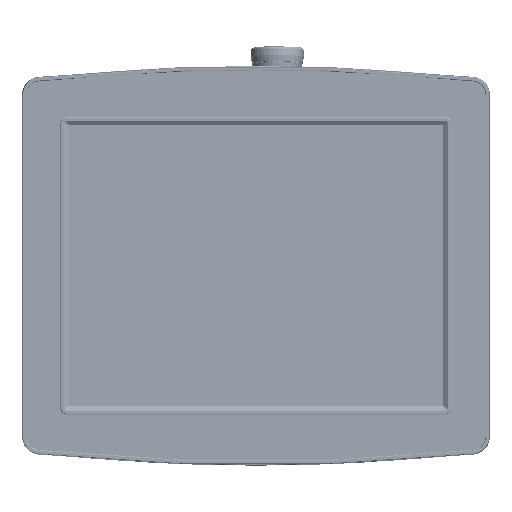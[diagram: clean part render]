
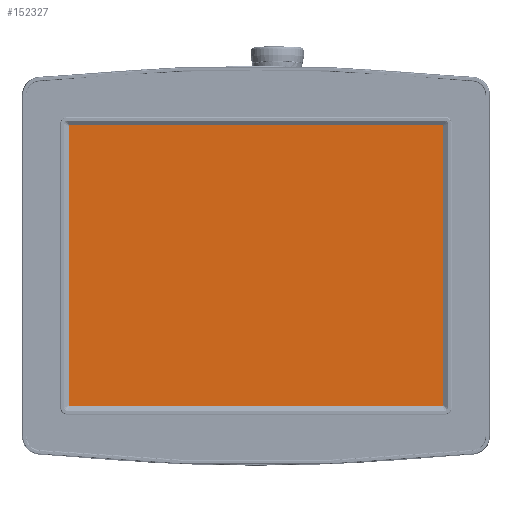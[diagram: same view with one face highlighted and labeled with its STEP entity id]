
A CAD part, top view. The second image highlights one B-rep face of the part: STEP entity #152327.
In plain terms, the highlighted planar face has unit normal (0, 0, 1).
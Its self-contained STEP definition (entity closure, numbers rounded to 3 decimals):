
#16650 = CARTESIAN_POINT ( 'NONE',  ( 25.81, 25.83, -0.45 ) ) ;
#61276 = ORIENTED_EDGE ( 'NONE', *, *, #627952, .T. ) ;
#71238 = DIRECTION ( 'NONE',  ( 1., 0., 0. ) ) ;
#73492 = VECTOR ( 'NONE', #71238, 1000. ) ;
#138858 = CARTESIAN_POINT ( 'NONE',  ( 25.81, 25.83, -0.45 ) ) ;
#152327 = ADVANCED_FACE ( 'NONE', ( #237484 ), #245871, .T. ) ;
#162968 = ORIENTED_EDGE ( 'NONE', *, *, #581697, .T. ) ;
#164666 = DIRECTION ( 'NONE',  ( 0., 1., 0. ) ) ;
#193358 = DIRECTION ( 'NONE',  ( 1., 0., 0. ) ) ;
#222111 = CARTESIAN_POINT ( 'NONE',  ( 237.39, 25.83, -0.45 ) ) ;
#237484 = FACE_OUTER_BOUND ( 'NONE', #618529, .T. ) ;
#245871 = PLANE ( 'NONE',  #559410 ) ;
#248037 = VERTEX_POINT ( 'NONE', #329435 ) ;
#249785 = VECTOR ( 'NONE', #273059, 1000. ) ;
#251540 = LINE ( 'NONE', #333216, #540423 ) ;
#273059 = DIRECTION ( 'NONE',  ( 0., -1., 0. ) ) ;
#329435 = CARTESIAN_POINT ( 'NONE',  ( 237.39, 184.58, -0.45 ) ) ;
#333216 = CARTESIAN_POINT ( 'NONE',  ( 25.81, 184.58, -0.45 ) ) ;
#366212 = VERTEX_POINT ( 'NONE', #390178 ) ;
#380997 = CARTESIAN_POINT ( 'NONE',  ( 237.39, 184.58, -0.45 ) ) ;
#390178 = CARTESIAN_POINT ( 'NONE',  ( 25.81, 25.83, -0.45 ) ) ;
#463413 = VERTEX_POINT ( 'NONE', #222111 ) ;
#516402 = CARTESIAN_POINT ( 'NONE',  ( 25.81, 184.58, -0.45 ) ) ;
#519008 = DIRECTION ( 'NONE',  ( 0., 0., 1. ) ) ;
#523964 = LINE ( 'NONE', #16650, #73492 ) ;
#525173 = LINE ( 'NONE', #380997, #652552 ) ;
#531057 = EDGE_CURVE ( 'NONE', #248037, #703354, #251540, .T. ) ;
#532729 = ORIENTED_EDGE ( 'NONE', *, *, #615124, .T. ) ;
#540423 = VECTOR ( 'NONE', #544574, 1000. ) ;
#544574 = DIRECTION ( 'NONE',  ( -1., 0., 0. ) ) ;
#559410 = AXIS2_PLACEMENT_3D ( 'NONE', #138858, #519008, #193358 ) ;
#581697 = EDGE_CURVE ( 'NONE', #703354, #366212, #666063, .T. ) ;
#598119 = CARTESIAN_POINT ( 'NONE',  ( 25.81, 184.58, -0.45 ) ) ;
#615124 = EDGE_CURVE ( 'NONE', #366212, #463413, #523964, .T. ) ;
#618529 = EDGE_LOOP ( 'NONE', ( #162968, #532729, #61276, #659687 ) ) ;
#627952 = EDGE_CURVE ( 'NONE', #463413, #248037, #525173, .T. ) ;
#652552 = VECTOR ( 'NONE', #164666, 1000. ) ;
#659687 = ORIENTED_EDGE ( 'NONE', *, *, #531057, .T. ) ;
#666063 = LINE ( 'NONE', #598119, #249785 ) ;
#703354 = VERTEX_POINT ( 'NONE', #516402 ) ;
